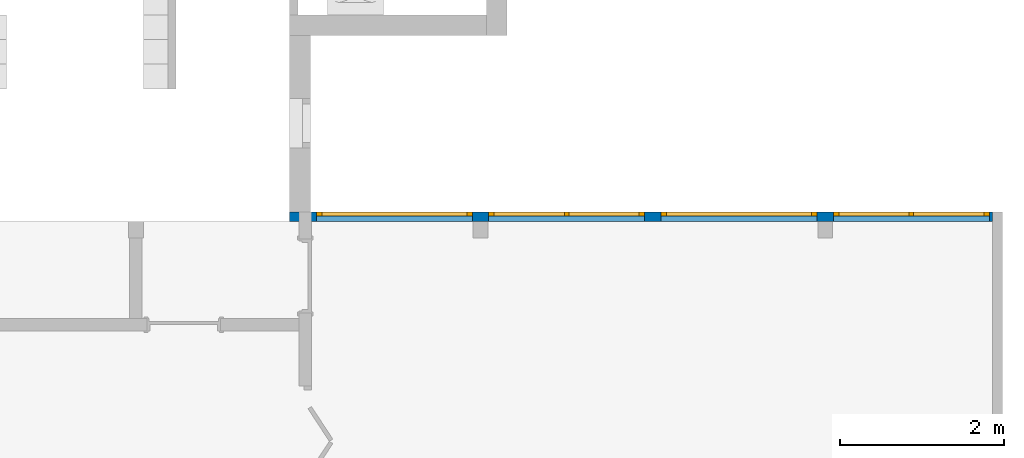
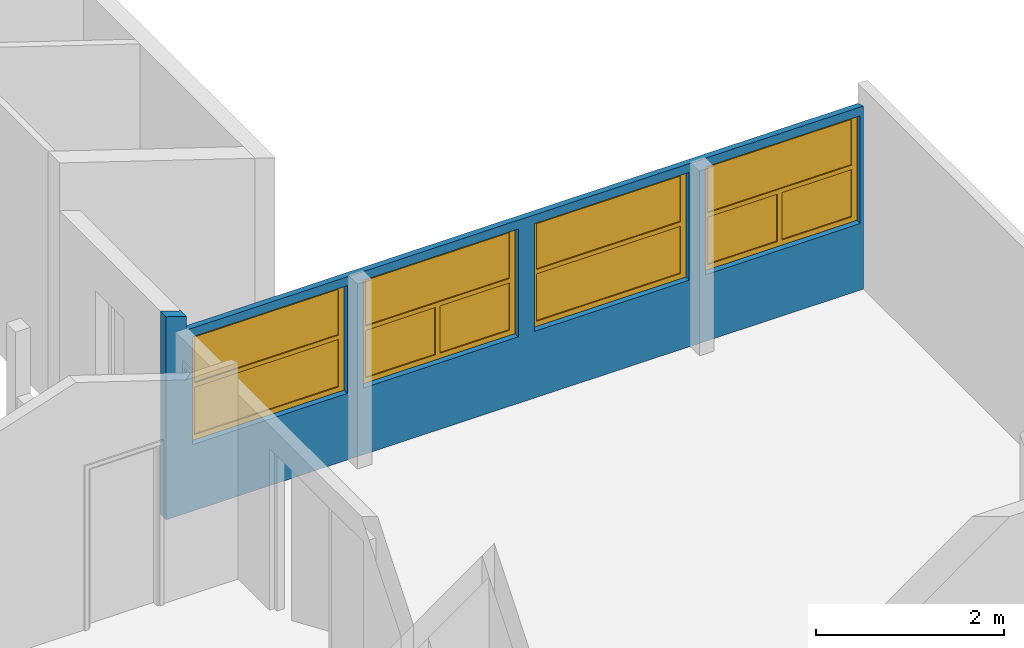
# One storey, part 28 of 48: 4 windows, 1 wall, 4 openings.
"""IFC2X3 building model written with IfcOpenShell, lengths in millimetres."""

import ifcopenshell
import ifcopenshell.guid

model = None  # the IFC model being written
_history = None  # IfcOwnerHistory: only IFC2X3 demands one
_inside = {}  # id of a spatial element -> (the spatial element, [elements in it])
_under = {}  # id of a project, library or spatial element -> (it, [spatial elements below it])
_declared = {}  # id of a project -> (the project, [libraries it declares])
_typed = {}  # id of a type object -> (the type object, [elements of that type])
_made_of = {}  # id of a material, layer set ... -> (it, [elements and type objects made of it])


def new_model(schema):
    """Start an empty IFC model of exactly this schema.

    Asked for "IFC4X3", IfcOpenShell would pick the latest addendum, in which some entities
    have other attributes; the version numbers below select the first issue.
    IFC2X3 requires an IfcOwnerHistory on every rooted entity: one is made here for all.
    """
    global model, _history
    if schema == "IFC4X3":
        model = ifcopenshell.file(schema_version=(4, 3, 0, 0))
    else:
        model = ifcopenshell.file(schema=schema)
    _inside.clear()
    _under.clear()
    _declared.clear()
    _typed.clear()
    _made_of.clear()
    _history = None
    if model.schema == "IFC2X3":
        org = make("IfcOrganization", Name="unknown")
        user = make(
            "IfcPersonAndOrganization",
            ThePerson=make("IfcPerson", FamilyName="unknown"),
            TheOrganization=org,
        )
        app = make(
            "IfcApplication",
            ApplicationDeveloper=org,
            Version="unknown",
            ApplicationFullName="unknown",
            ApplicationIdentifier="unknown",
        )
        _history = make(
            "IfcOwnerHistory",
            OwningUser=user,
            OwningApplication=app,
            ChangeAction="ADDED",
            CreationDate=0,
        )
    return model


def make(cls, **values):
    """One entity of the class cls with the attributes given. An attribute that is None is left unset."""
    return model.create_entity(
        cls, **{name: value for name, value in values.items() if value is not None}
    )


def entity(cls, *values):
    """Any entity or typed value of the class cls, its attributes in the order of the schema. None: left unset."""
    e = model.create_entity(cls)
    for i, value in enumerate(values):
        if value is not None:
            e[i] = value
    return e


def rooted(cls, **values):
    """An entity with a GlobalId (a new one), such as an element, a storey or a relation."""
    return make(cls, GlobalId=ifcopenshell.guid.new(), OwnerHistory=_history, **values)


def si_unit(unit_type, name, prefix=None):
    """IfcSIUnit, for example si_unit("LENGTHUNIT", "METRE", prefix="MILLI")."""
    return make("IfcSIUnit", UnitType=unit_type, Prefix=prefix, Name=name)


def converted_unit(unit_type, name, factor, base, dimensions=None, offset=None):
    """IfcConversionBasedUnit, such as the inch: factor (a typed value) times the base unit."""
    return make(
        "IfcConversionBasedUnit"
        if offset is None
        else "IfcConversionBasedUnitWithOffset",
        ConversionOffset=offset,
        Dimensions=None
        if dimensions is None
        else entity("IfcDimensionalExponents", *dimensions),
        UnitType=unit_type,
        Name=name,
        ConversionFactor=make(
            "IfcMeasureWithUnit", ValueComponent=factor, UnitComponent=base
        ),
    )


def derived_unit(unit_type, elements):
    """IfcDerivedUnit: a product of units, each with its exponent."""
    return make(
        "IfcDerivedUnit",
        Elements=[
            make("IfcDerivedUnitElement", Unit=unit, Exponent=power)
            for unit, power in elements
        ],
        UnitType=unit_type,
    )


def money_unit(currency):
    """IfcMonetaryUnit."""
    return make("IfcMonetaryUnit", Currency=currency)


def assignment(units):
    """IfcUnitAssignment: the units of a project."""
    return None if units is None else make("IfcUnitAssignment", Units=units)


def point(xyz):
    """IfcCartesianPoint."""
    return None if xyz is None else make("IfcCartesianPoint", Coordinates=xyz)


def direction(xyz):
    """IfcDirection."""
    return None if xyz is None else make("IfcDirection", DirectionRatios=xyz)


def frame(location, z_axis=None, x_axis=None):
    """IfcAxis2Placement3D, a coordinate frame: its origin and axes. An axis left out is left unset."""
    return make(
        "IfcAxis2Placement3D",
        Location=point(location),
        Axis=direction(z_axis),
        RefDirection=direction(x_axis),
    )


def origin_with_axes():
    """The frame at (0, 0, 0) with the z axis (0, 0, 1) and the x axis (1, 0, 0) written out."""
    return frame((0.0, 0.0, 0.0), z_axis=(0.0, 0.0, 1.0), x_axis=(1.0, 0.0, 0.0))


def place(relative_to, where):
    """IfcLocalPlacement: puts the frame where relative to a parent placement (None: the world)."""
    return make(
        "IfcLocalPlacement", PlacementRelTo=relative_to, RelativePlacement=where
    )


def context(
    kind, dimensions, precision=None, world=None, true_north=None, identifier=None
):
    """IfcGeometricRepresentationContext, for example the 3D "Model" context."""
    return make(
        "IfcGeometricRepresentationContext",
        ContextIdentifier=identifier,
        ContextType=kind,
        CoordinateSpaceDimension=dimensions,
        Precision=precision,
        WorldCoordinateSystem=world,
        TrueNorth=true_north,
    )


def subcontext(parent, identifier, kind, view, scale=None):
    """IfcGeometricRepresentationSubContext, for example "Body" below "Model"."""
    return make(
        "IfcGeometricRepresentationSubContext",
        ContextIdentifier=identifier,
        ContextType=kind,
        ParentContext=parent,
        TargetScale=scale,
        TargetView=view,
    )


def project(units=None, contexts=None):
    """IfcProject with its units and contexts."""
    return rooted(
        "IfcProject",
        Name="project",
        RepresentationContexts=contexts,
        UnitsInContext=assignment(units),
    )


def spatial(cls, under=None, at=None, **own):
    """A site, building, storey or space (cls), placed at a placement, below another one or the project."""
    s = rooted(cls, ObjectPlacement=at, **own)
    if under is not None:
        _under.setdefault(under.id(), (under, []))[1].append(s)
    return s


def faces_of(points, faces, orient=None, outer=None):
    """IfcFace entities. A face is a list of loops; a loop is a list of indices into points, from 0.

    orient and outer hold one flag for each loop. By default every Orientation is true, the
    first loop of a face is its IfcFaceOuterBound and the others are IfcFaceBound.
    """
    made = []
    for i, loops in enumerate(faces):
        bounds = []
        for j, loop in enumerate(loops):
            is_outer = j == 0 if outer is None else outer[i][j]
            bounds.append(
                make(
                    "IfcFaceOuterBound" if is_outer else "IfcFaceBound",
                    Bound=make("IfcPolyLoop", Polygon=[points[k] for k in loop]),
                    Orientation=True if orient is None else orient[i][j],
                )
            )
        made.append(make("IfcFace", Bounds=bounds))
    return made


def open_shell(faces, orient=None, outer=None):
    """The faces of one IfcOpenShell. surface_model builds it on its shared points."""
    return ("IfcOpenShell", faces, orient, outer)


def faceted_brep(points, faces, orient=None, outer=None, voids=None):
    """IfcFacetedBrep: a solid bounded by flat faces; with voids (closed shells), ...WithVoids."""
    shared = [point(p) for p in points]
    hull = make("IfcClosedShell", CfsFaces=faces_of(shared, faces, orient, outer))
    if voids is None:
        return make("IfcFacetedBrep", Outer=hull)
    return make(
        "IfcFacetedBrepWithVoids",
        Outer=hull,
        Voids=[
            make(cls, CfsFaces=faces_of(shared, fs, o, b)) for cls, fs, o, b in voids
        ],
    )


def surface_model(cls, points, shells):
    """IfcFaceBasedSurfaceModel or IfcShellBasedSurfaceModel (cls): surfaces that need not close."""
    shared = [point(p) for p in points]
    made = [make(c, CfsFaces=faces_of(shared, fs, o, b)) for c, fs, o, b in shells]
    if cls == "IfcFaceBasedSurfaceModel":
        return make(cls, FbsmFaces=made)
    return make(cls, SbsmBoundary=made)


def shape(context_of_items, identifier, shape_type, items):
    """IfcShapeRepresentation: the items that make up one representation, for example the "Body"."""
    return make(
        "IfcShapeRepresentation",
        ContextOfItems=context_of_items,
        RepresentationIdentifier=identifier,
        RepresentationType=shape_type,
        Items=items,
    )


def source(mapping_origin, context_of_items, identifier, shape_type, items):
    """IfcRepresentationMap: a shape defined once, which mapped items show again and again."""
    return make(
        "IfcRepresentationMap",
        MappingOrigin=mapping_origin,
        MappedRepresentation=shape(context_of_items, identifier, shape_type, items),
    )


def transform(
    local_origin,
    x_axis=None,
    y_axis=None,
    z_axis=None,
    scale=None,
    scale2=None,
    scale3=None,
    uniform=True,
):
    """IfcCartesianTransformationOperator3D, or its non-uniform kind. x_axis, y_axis, z_axis: its Axis1, 2, 3."""
    if uniform:
        return make(
            "IfcCartesianTransformationOperator3D",
            Axis1=direction(x_axis),
            Axis2=direction(y_axis),
            LocalOrigin=point(local_origin),
            Scale=scale,
            Axis3=direction(z_axis),
        )
    return make(
        "IfcCartesianTransformationOperator3DnonUniform",
        Axis1=direction(x_axis),
        Axis2=direction(y_axis),
        LocalOrigin=point(local_origin),
        Scale=scale,
        Axis3=direction(z_axis),
        Scale2=scale2,
        Scale3=scale3,
    )


def mapped(mapping_source, mapping_target):
    """IfcMappedItem: shows the shape of a source again, moved by a transform."""
    return make(
        "IfcMappedItem", MappingSource=mapping_source, MappingTarget=mapping_target
    )


def material(Name=None, Category=None):
    """IfcMaterial."""
    return make("IfcMaterial", Name=Name, Category=Category)


def made_of(thing, what):
    """Note that an element or type object is made of a material, layer set ...; save() writes the relation."""
    if what is not None:
        _made_of.setdefault(what.id(), (what, []))[1].append(thing)
    return thing


def type_object(cls, material=None, **own):
    """A type object (cls), such as IfcWallType, which elements share."""
    return made_of(rooted(cls, **own), material)


def element(
    cls,
    number,
    at=None,
    inside=None,
    cuts=None,
    type_object=None,
    material=None,
    context=None,
    identifier="Body",
    shape_type=None,
    held_by="IfcProductDefinitionShape",
    body=None,
    shapes=None,
    **own,
):
    """One element of the class cls, such as IfcWall. Its Tag is "e" and its number.

    at: its placement. inside: the storey or other place that contains it. cuts: it is an
    opening in that element (IfcRelVoidsElement). A single representation is given by context,
    identifier, shape_type and body (its items); several are given by shapes. held_by: the class
    of the entity that holds the representations. save() writes the other relations.
    """
    e = rooted(cls, Tag="e%d" % number, ObjectPlacement=at, **own)
    if body is not None:
        shapes = [shape(context, identifier, shape_type, body)]
    if shapes is not None:
        e.Representation = make(held_by, Representations=shapes)
    if inside is not None:
        _inside.setdefault(inside.id(), (inside, []))[1].append(e)
    if cuts is not None:
        rooted(
            "IfcRelVoidsElement", RelatingBuildingElement=cuts, RelatedOpeningElement=e
        )
    if type_object is not None:
        _typed.setdefault(type_object.id(), (type_object, []))[1].append(e)
    return made_of(e, material)


def fill(opening, filler):
    """IfcRelFillsElement: the door or window that sits in an opening."""
    return rooted(
        "IfcRelFillsElement",
        RelatingOpeningElement=opening,
        RelatedBuildingElement=filler,
    )


def aggregate(whole, parts):
    """IfcRelAggregates: a whole, such as a stair, and the parts it consists of."""
    return rooted("IfcRelAggregates", RelatingObject=whole, RelatedObjects=parts)


def save(model, path):
    """Write the relations noted so far, then the file.

    IfcRelAggregates (storeys below a building ...), IfcRelContainedInSpatialStructure (elements
    in a storey), IfcRelDefinesByType, IfcRelAssociatesMaterial and IfcRelDeclares: one each for
    every whole, place, type object, material and project.
    """
    for whole, parts in _under.values():
        aggregate(whole, parts)
    for where, things in _inside.values():
        rooted(
            "IfcRelContainedInSpatialStructure",
            RelatedElements=things,
            RelatingStructure=where,
        )
    for kind, things in _typed.values():
        rooted("IfcRelDefinesByType", RelatedObjects=things, RelatingType=kind)
    for what, things in _made_of.values():
        rooted("IfcRelAssociatesMaterial", RelatedObjects=things, RelatingMaterial=what)
    for by, libraries in _declared.values():
        rooted("IfcRelDeclares", RelatingContext=by, RelatedDefinitions=libraries)
    model.write(path)


model = new_model("IFC2X3")

# Units and contexts
model_context = context("Model", 3, precision=0.01, world=origin_with_axes(), true_north=direction((0.0, 1.0)))
body_context = subcontext(model_context, "Body", "Model", "MODEL_VIEW")
ifc_project = project(units=[si_unit("LENGTHUNIT", "METRE", prefix="MILLI"), si_unit("AREAUNIT", "SQUARE_METRE"), si_unit("VOLUMEUNIT", "CUBIC_METRE"), converted_unit("PLANEANGLEUNIT", "DEGREE", entity("IfcPlaneAngleMeasure", 0.0174532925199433), si_unit("PLANEANGLEUNIT", "RADIAN"), dimensions=[0, 0, 0, 0, 0, 0, 0]), money_unit("USD"), converted_unit("TIMEUNIT", "Year", entity("IfcTimeMeasure", 31557600.0), si_unit("TIMEUNIT", "SECOND"), dimensions=[0, 0, 1, 0, 0, 0, 0]), si_unit("MASSUNIT", "GRAM", prefix="KILO"), si_unit("THERMODYNAMICTEMPERATUREUNIT", "DEGREE_CELSIUS"), si_unit("LUMINOUSINTENSITYUNIT", "LUMEN"), si_unit("ENERGYUNIT", "JOULE", prefix="MEGA"), derived_unit("THERMALCONDUCTANCEUNIT", [(si_unit("POWERUNIT", "WATT"), 1), (si_unit("LENGTHUNIT", "METRE"), -1), (si_unit("THERMODYNAMICTEMPERATUREUNIT", "KELVIN"), -1)]), derived_unit("SPECIFICHEATCAPACITYUNIT", [(si_unit("ENERGYUNIT", "JOULE"), 1), (si_unit("MASSUNIT", "GRAM", prefix="KILO"), -1), (si_unit("THERMODYNAMICTEMPERATUREUNIT", "KELVIN"), -1)]), derived_unit("MASSDENSITYUNIT", [(si_unit("MASSUNIT", "GRAM", prefix="KILO"), 1), (si_unit("VOLUMEUNIT", "CUBIC_METRE"), -1)])], contexts=[model_context])

# Site, building, storey
site_placement = place(None, origin_with_axes())
site = spatial("IfcSite", under=ifc_project, at=site_placement, Name="Site", CompositionType="ELEMENT")
building_placement = place(site_placement, origin_with_axes())
building = spatial("IfcBuilding", under=site, at=building_placement, Name="Building", CompositionType="ELEMENT")
storey_placement = place(building_placement, frame((0.0, 0.0, 3300.0), z_axis=(0.0, 0.0, 1.0), x_axis=(1.0, 0.0, 0.0)))
storey = spatial("IfcBuildingStorey", under=building, at=storey_placement, Name="1 ETG", CompositionType="ELEMENT", Elevation=3300.0)

# Wall, openings, windows
ifc_material = material(Name="GENERIC - STRUCTURAL")
wall_type = type_object("IfcWallType", Name="GENERIC - STRUCTURAL 120", PredefinedType="NOTDEFINED")
wall_placement = place(storey_placement, frame((63949.99999506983, 21799.87541055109, 0.0), z_axis=(0.0, 0.0, 1.0), x_axis=(1.0, 0.0, 0.0)))
wall = element("IfcWall", 1, at=wall_placement, inside=storey, type_object=wall_type, material=ifc_material, Name="SW - 001", context=body_context, shape_type="Brep", body=[
    faceted_brep([(8440.000004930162, 0.0, 0.0), (8440.000004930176, 0.0, 2379.142857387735), (2290.000004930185, 0.0, 2379.142857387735), (2290.000004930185, 0.0, 0.0), (6300.000004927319, 0.0, 865.018749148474), (4400.000004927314, 0.0, 865.018749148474), (4400.000004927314, 0.0, 2265.018749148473), (6300.000004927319, 0.0, 2265.018749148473), (2300.000004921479, 0.0, 2265.018749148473), (4200.000004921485, 0.0, 2265.018749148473), (4200.000004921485, 0.0, 865.018749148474), (2300.000004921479, 0.0, 865.018749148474), (6500.000004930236, 0.0, 865.018749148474), (6500.000004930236, 0.0, 2265.018749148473), (8400.000004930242, 0.0, 2265.018749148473), (8400.000004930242, 0.0, 865.018749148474), (8440.000004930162, 120.000000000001, 0.0), (8440.000004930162, 120.000000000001, 2340.1929251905), (124.9999457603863, 0.0, 2379.142857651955), (2110.000004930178, 0.0, 2379.142857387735), (2110.000004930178, 0.01041998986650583, 2379.139475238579), (2290.000004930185, 0.01041998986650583, 2379.139475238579), (124.9999457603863, 120.000000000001, 2340.192925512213), (2290.000004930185, 0.01041998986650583, 0.0), (-125.0001230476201, 0.0, 0.0), (-125.0001230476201, 120.000000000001, 0.0), (2110.000004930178, 0.01041998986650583, 0.0), (2110.000004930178, 0.0, 0.0), (6300.000004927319, 120.000000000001, 865.018749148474), (4400.000004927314, 120.000000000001, 865.018749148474), (4400.000004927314, 120.000000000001, 2265.018749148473), (6300.000004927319, 120.000000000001, 2265.018749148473), (4200.000004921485, 120.000000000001, 2265.018749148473), (2300.000004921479, 120.000000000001, 2265.018749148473), (4200.000004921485, 120.000000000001, 865.018749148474), (2300.000004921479, 120.000000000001, 865.018749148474), (6500.000004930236, 120.000000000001, 865.018749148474), (6500.000004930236, 120.000000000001, 2265.018749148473), (8400.000004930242, 120.000000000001, 2265.018749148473), (8400.000004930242, 120.000000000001, 865.018749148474), (-125.0001230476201, 120.000000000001, 2639.36754174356), (124.9999457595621, 120.000000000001, 2558.144358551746), (2100.000004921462, 120.000000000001, 2265.018749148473), (200.0000049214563, 120.000000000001, 2265.018749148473), (200.0000049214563, 120.000000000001, 865.018749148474), (2100.000004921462, 120.000000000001, 865.018749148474), (124.9999457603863, 0.0, 2558.144358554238), (-125.0001230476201, 0.0, 2639.36754174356), (2100.000004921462, 0.0, 2265.018749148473), (2100.000004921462, 0.0, 865.018749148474), (200.0000049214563, 0.0, 865.018749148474), (200.0000049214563, 0.0, 2265.018749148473)], [[[0, 1, 2, 3], [4, 5, 6, 7], [8, 9, 10, 11], [12, 13, 14, 15]], [[16, 17, 1, 0]], [[18, 19, 20, 21, 2, 1, 17, 22]], [[3, 2, 21, 23]], [[24, 25, 16, 0, 3, 23, 26, 27]], [[4, 28, 29, 5]], [[5, 29, 30, 6]], [[6, 30, 31, 7]], [[7, 31, 28, 4]], [[32, 9, 8, 33]], [[34, 10, 9, 32]], [[35, 11, 10, 34]], [[33, 8, 11, 35]], [[36, 37, 13, 12]], [[37, 38, 14, 13]], [[38, 39, 15, 14]], [[39, 36, 12, 15]], [[25, 40, 41, 22, 17, 16], [30, 29, 28, 31], [42, 43, 44, 45], [34, 32, 33, 35], [36, 39, 38, 37]], [[46, 47, 24, 27, 19, 18], [48, 49, 50, 51]], [[26, 20, 19, 27]], [[23, 21, 20, 26]], [[22, 41, 46, 18]], [[24, 47, 40, 25]], [[46, 41, 40, 47]], [[48, 51, 43, 42]], [[51, 50, 44, 43]], [[50, 49, 45, 44]], [[49, 48, 42, 45]]]),
])
opening_1_placement = place(wall_placement, frame((3250.000004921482, 0.0, 865.018749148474), z_axis=(0.0, 0.0, 1.0), x_axis=(1.0, 0.0, 0.0)))
opening_1 = element("IfcOpeningElement", 2, at=opening_1_placement, cuts=wall, Name="WD - 001", context=body_context, shape_type="Brep", body=[
    faceted_brep([(-950.0000000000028, -1.000000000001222, 1400.0), (-950.0000000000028, -1.000000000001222, 0.0), (950.0000000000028, -1.000000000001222, 0.0), (950.0000000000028, -1.000000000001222, 1400.0), (-950.0000000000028, 121.0000000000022, 1400.0), (-950.0000000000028, 121.0000000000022, 0.0), (950.0000000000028, 121.0000000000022, 0.0), (950.0000000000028, 121.0000000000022, 1400.0)], [[[0, 1, 2, 3]], [[4, 5, 1, 0]], [[5, 6, 2, 1]], [[6, 7, 3, 2]], [[7, 4, 0, 3]], [[6, 5, 4, 7]]]),
])
opening_2_placement = place(wall_placement, frame((1150.000004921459, 0.0, 865.018749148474), z_axis=(0.0, 0.0, 1.0), x_axis=(1.0, 0.0, 0.0)))
opening_2 = element("IfcOpeningElement", 3, at=opening_2_placement, cuts=wall, Name="WD - 001", context=body_context, shape_type="Brep", body=[
    faceted_brep([(-950.0000000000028, -1.000000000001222, 1400.0), (-950.0000000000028, -1.000000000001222, 0.0), (950.0000000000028, -1.000000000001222, 0.0), (950.0000000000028, -1.000000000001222, 1400.0), (-950.0000000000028, 121.0000000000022, 1400.0), (-950.0000000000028, 121.0000000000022, 0.0), (950.0000000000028, 121.0000000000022, 0.0), (950.0000000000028, 121.0000000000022, 1400.0)], [[[0, 1, 2, 3]], [[4, 5, 1, 0]], [[5, 6, 2, 1]], [[6, 7, 3, 2]], [[7, 4, 0, 3]], [[6, 5, 4, 7]]]),
])
opening_3_placement = place(wall_placement, frame((5350.000004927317, 0.0, 865.018749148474), z_axis=(0.0, 0.0, 1.0), x_axis=(1.0, 0.0, 0.0)))
opening_3 = element("IfcOpeningElement", 4, at=opening_3_placement, cuts=wall, Name="WD - 001", context=body_context, shape_type="Brep", body=[
    faceted_brep([(-950.0000000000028, -1.000000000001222, 1400.0), (-950.0000000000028, -1.000000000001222, 0.0), (950.0000000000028, -1.000000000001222, 0.0), (950.0000000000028, -1.000000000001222, 1400.0), (-950.0000000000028, 121.0000000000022, 1400.0), (-950.0000000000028, 121.0000000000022, 0.0), (950.0000000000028, 121.0000000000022, 0.0), (950.0000000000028, 121.0000000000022, 1400.0)], [[[0, 1, 2, 3]], [[4, 5, 1, 0]], [[5, 6, 2, 1]], [[6, 7, 3, 2]], [[7, 4, 0, 3]], [[6, 5, 4, 7]]]),
])
opening_4_placement = place(wall_placement, frame((7450.000004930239, 0.0, 865.018749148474), z_axis=(0.0, 0.0, 1.0), x_axis=(1.0, 0.0, 0.0)))
opening_4 = element("IfcOpeningElement", 5, at=opening_4_placement, cuts=wall, Name="WD - 001", context=body_context, shape_type="Brep", body=[
    faceted_brep([(-950.0000000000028, -1.000000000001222, 1400.0), (-950.0000000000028, -1.000000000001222, 0.0), (950.0000000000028, -1.000000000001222, 0.0), (950.0000000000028, -1.000000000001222, 1400.0), (-950.0000000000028, 121.0000000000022, 1400.0), (-950.0000000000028, 121.0000000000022, 0.0), (950.0000000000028, 121.0000000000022, 0.0), (950.0000000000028, 121.0000000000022, 1400.0)], [[[0, 1, 2, 3]], [[4, 5, 1, 0]], [[5, 6, 2, 1]], [[6, 7, 3, 2]], [[7, 4, 0, 3]], [[6, 5, 4, 7]]]),
])
window_style_1 = type_object("IfcWindowStyle", Name="Vindu variabelt", ConstructionType="NOTDEFINED", OperationType="DOUBLE_PANEL_HORIZONTAL", ParameterTakesPrecedence=False, Sizeable=False)
shared_shape_1 = source(origin_with_axes(), body_context, "Body", "SurfaceModel", [
    faceted_brep([(883.9999999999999, -50.00000000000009, 681.9999999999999), (883.9999999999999, -50.00000000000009, 738.0), (883.9999999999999, 0.0, 738.0), (883.9999999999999, 0.0, 681.9999999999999), (883.9999999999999, -50.00000000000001, 66.0), (950.0, -50.00000000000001, 66.0), (950.0, -50.00000000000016, 1334.0), (883.9999999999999, -50.00000000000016, 1334.0), (883.9999999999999, 0.0, 1334.0), (950.0, 0.0, 1334.0), (950.0, 0.0, 66.0), (883.9999999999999, 0.0, 66.0)], [[[0, 1, 2, 3]], [[0, 4, 5, 6, 7, 1]], [[1, 7, 8, 2]], [[3, 2, 8, 9, 10, 11]], [[4, 0, 3, 11]], [[5, 4, 11, 10]], [[6, 5, 10, 9]], [[7, 6, 9, 8]]]),
    faceted_brep([(-883.9999999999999, -50.00000000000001, 66.0), (-950.0, -50.00000000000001, 66.0), (-950.0, 0.0, 66.0), (-883.9999999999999, 0.0, 66.0), (-883.9999999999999, -50.00000000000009, 681.9999999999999), (-883.9999999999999, -50.00000000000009, 738.0), (-883.9999999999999, -50.00000000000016, 1334.0), (-950.0, -50.00000000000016, 1334.0), (-950.0, 0.0, 1334.0), (-883.9999999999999, 0.0, 1334.0), (-883.9999999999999, 0.0, 738.0), (-883.9999999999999, 0.0, 681.9999999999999)], [[[0, 1, 2, 3]], [[0, 4, 5, 6, 7, 1]], [[1, 7, 8, 2]], [[3, 2, 8, 9, 10, 11]], [[4, 0, 3, 11]], [[5, 4, 11, 10]], [[6, 5, 10, 9]], [[7, 6, 9, 8]]]),
    faceted_brep([(883.9999999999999, -50.00000000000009, 738.0), (883.9999999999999, -50.00000000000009, 681.9999999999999), (883.9999999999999, 0.0, 681.9999999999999), (883.9999999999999, 0.0, 738.0), (-883.9999999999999, -50.00000000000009, 738.0), (-883.9999999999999, -50.00000000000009, 681.9999999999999), (-883.9999999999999, 0.0, 681.9999999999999), (-883.9999999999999, 0.0, 738.0)], [[[0, 1, 2, 3]], [[0, 4, 5, 1]], [[1, 5, 6, 2]], [[3, 2, 6, 7]], [[4, 0, 3, 7]], [[5, 4, 7, 6]]]),
    faceted_brep([(883.9999999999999, -50.00000000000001, 66.0), (950.0, -50.00000000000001, 66.0), (950.0, 0.0, 66.0), (883.9999999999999, 0.0, 66.0), (-883.9999999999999, -50.00000000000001, 66.0), (-950.0, -50.00000000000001, 66.0), (-950.0, -50.0, 0.0), (950.0, -50.0, 0.0), (950.0, 0.0, 0.0), (-950.0, 0.0, 0.0), (-950.0, 0.0, 66.0), (-883.9999999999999, 0.0, 66.0)], [[[0, 1, 2, 3]], [[0, 4, 5, 6, 7, 1]], [[1, 7, 8, 2]], [[3, 2, 8, 9, 10, 11]], [[4, 0, 3, 11]], [[5, 4, 11, 10]], [[6, 5, 10, 9]], [[7, 6, 9, 8]]]),
    faceted_brep([(-883.9999999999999, -50.00000000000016, 1334.0), (-950.0, -50.00000000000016, 1334.0), (-950.0, 0.0, 1334.0), (-883.9999999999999, 0.0, 1334.0), (883.9999999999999, -50.00000000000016, 1334.0), (950.0, -50.00000000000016, 1334.0), (950.0, -50.00000000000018, 1400.0), (-950.0, -50.00000000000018, 1400.0), (-950.0, 0.0, 1400.0), (950.0, 0.0, 1400.0), (950.0, 0.0, 1334.0), (883.9999999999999, 0.0, 1334.0)], [[[0, 1, 2, 3]], [[0, 4, 5, 6, 7, 1]], [[1, 7, 8, 2]], [[3, 2, 8, 9, 10, 11]], [[4, 0, 3, 11]], [[5, 4, 11, 10]], [[6, 5, 10, 9]], [[7, 6, 9, 8]]]),
    surface_model("IfcShellBasedSurfaceModel", [(883.9999999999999, -35.00000000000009, 738.0), (883.9999999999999, -35.00000000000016, 1334.0), (-883.9999999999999, -35.00000000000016, 1334.0), (-883.9999999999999, -35.00000000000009, 738.0)], [open_shell([[[0, 1, 2, 3]]])]),
    surface_model("IfcShellBasedSurfaceModel", [(883.9999999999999, -15.00000000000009, 738.0), (-883.9999999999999, -15.00000000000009, 738.0), (-883.9999999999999, -15.00000000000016, 1334.0), (883.9999999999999, -15.00000000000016, 1334.0)], [open_shell([[[0, 1, 2, 3]]])]),
    surface_model("IfcShellBasedSurfaceModel", [(883.9999999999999, -35.00000000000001, 66.0), (883.9999999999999, -35.00000000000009, 681.9999999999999), (-883.9999999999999, -35.00000000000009, 681.9999999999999), (-883.9999999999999, -35.00000000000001, 66.0)], [open_shell([[[0, 1, 2, 3]]])]),
    surface_model("IfcShellBasedSurfaceModel", [(883.9999999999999, -15.00000000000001, 66.0), (-883.9999999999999, -15.00000000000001, 66.0), (-883.9999999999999, -15.00000000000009, 681.9999999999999), (883.9999999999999, -15.00000000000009, 681.9999999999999)], [open_shell([[[0, 1, 2, 3]]])]),
])
window_1_placement = place(opening_3_placement, frame((-950.0000000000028, 0.0, 0.0), z_axis=(0.0, 0.0, 1.0), x_axis=(1.0, 0.0, 0.0)))
window_1 = element("IfcWindow", 6, at=window_1_placement, inside=storey, type_object=window_style_1, Name="WD - 001", ObjectType="WINDOW", OverallHeight=1400.0, OverallWidth=1900.0, context=body_context, shape_type="MappedRepresentation", body=[
    mapped(shared_shape_1, transform((950.0000000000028, 120.000000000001, 0.0))),
])
fill(opening_3, window_1)
window_2_placement = place(opening_2_placement, frame((-950.0000000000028, 0.0, 0.0), z_axis=(0.0, 0.0, 1.0), x_axis=(1.0, 0.0, 0.0)))
window_2 = element("IfcWindow", 7, at=window_2_placement, inside=storey, type_object=window_style_1, Name="WD - 001", ObjectType="WINDOW", OverallHeight=1400.0, OverallWidth=1900.0, context=body_context, shape_type="MappedRepresentation", body=[
    mapped(shared_shape_1, transform((950.0000000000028, 120.000000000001, 0.0))),
])
fill(opening_2, window_2)
window_style_2 = type_object("IfcWindowStyle", Name="Vindu variabelt", ConstructionType="NOTDEFINED", OperationType="TRIPLE_PANEL_TOP", ParameterTakesPrecedence=False, Sizeable=False)
shared_shape_2 = source(origin_with_axes(), body_context, "Body", "SurfaceModel", [
    faceted_brep([(883.9999999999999, -50.00000000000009, 681.9999999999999), (883.9999999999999, -50.00000000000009, 738.0), (883.9999999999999, 0.0, 738.0), (883.9999999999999, 0.0, 681.9999999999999), (883.9999999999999, -50.00000000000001, 66.0), (950.0, -50.00000000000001, 66.0), (950.0, -50.00000000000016, 1334.0), (883.9999999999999, -50.00000000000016, 1334.0), (883.9999999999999, 0.0, 1334.0), (950.0, 0.0, 1334.0), (950.0, 0.0, 66.0), (883.9999999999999, 0.0, 66.0)], [[[0, 1, 2, 3]], [[0, 4, 5, 6, 7, 1]], [[1, 7, 8, 2]], [[3, 2, 8, 9, 10, 11]], [[4, 0, 3, 11]], [[5, 4, 11, 10]], [[6, 5, 10, 9]], [[7, 6, 9, 8]]]),
    faceted_brep([(-883.9999999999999, -50.00000000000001, 66.0), (-950.0, -50.00000000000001, 66.0), (-950.0, 0.0, 66.0), (-883.9999999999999, 0.0, 66.0), (-883.9999999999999, -50.00000000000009, 681.9999999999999), (-883.9999999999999, -50.00000000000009, 738.0), (-883.9999999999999, -50.00000000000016, 1334.0), (-950.0, -50.00000000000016, 1334.0), (-950.0, 0.0, 1334.0), (-883.9999999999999, 0.0, 1334.0), (-883.9999999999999, 0.0, 738.0), (-883.9999999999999, 0.0, 681.9999999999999)], [[[0, 1, 2, 3]], [[0, 4, 5, 6, 7, 1]], [[1, 7, 8, 2]], [[3, 2, 8, 9, 10, 11]], [[4, 0, 3, 11]], [[5, 4, 11, 10]], [[6, 5, 10, 9]], [[7, 6, 9, 8]]]),
    faceted_brep([(27.99999999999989, -50.00000000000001, 66.0), (-28.00000000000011, -50.00000000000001, 66.0), (-28.00000000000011, 0.0, 66.0), (27.99999999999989, 0.0, 66.0), (27.99999999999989, -50.00000000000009, 681.9999999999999), (-28.00000000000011, -50.00000000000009, 681.9999999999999), (-28.00000000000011, 0.0, 681.9999999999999), (27.99999999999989, 0.0, 681.9999999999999)], [[[0, 1, 2, 3]], [[0, 4, 5, 1]], [[1, 5, 6, 2]], [[3, 2, 6, 7]], [[4, 0, 3, 7]], [[5, 4, 7, 6]]]),
    faceted_brep([(883.9999999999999, -50.00000000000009, 738.0), (883.9999999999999, -50.00000000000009, 681.9999999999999), (883.9999999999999, 0.0, 681.9999999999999), (883.9999999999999, 0.0, 738.0), (-883.9999999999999, -50.00000000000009, 738.0), (-883.9999999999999, -50.00000000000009, 681.9999999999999), (-28.00000000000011, -50.00000000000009, 681.9999999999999), (27.99999999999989, -50.00000000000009, 681.9999999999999), (27.99999999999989, 0.0, 681.9999999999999), (-28.00000000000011, 0.0, 681.9999999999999), (-883.9999999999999, 0.0, 681.9999999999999), (-883.9999999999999, 0.0, 738.0)], [[[0, 1, 2, 3]], [[0, 4, 5, 6, 7, 1]], [[1, 7, 8, 2]], [[3, 2, 8, 9, 10, 11]], [[4, 0, 3, 11]], [[5, 4, 11, 10]], [[6, 5, 10, 9]], [[7, 6, 9, 8]]]),
    faceted_brep([(883.9999999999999, -50.00000000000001, 66.0), (950.0, -50.00000000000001, 66.0), (950.0, 0.0, 66.0), (883.9999999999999, 0.0, 66.0), (27.99999999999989, -50.00000000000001, 66.0), (-28.00000000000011, -50.00000000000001, 66.0), (-883.9999999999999, -50.00000000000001, 66.0), (-950.0, -50.00000000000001, 66.0), (-950.0, -50.0, 0.0), (950.0, -50.0, 0.0), (950.0, 0.0, 0.0), (-950.0, 0.0, 0.0), (-950.0, 0.0, 66.0), (-883.9999999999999, 0.0, 66.0), (-28.00000000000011, 0.0, 66.0), (27.99999999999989, 0.0, 66.0)], [[[0, 1, 2, 3]], [[0, 4, 5, 6, 7, 8, 9, 1]], [[1, 9, 10, 2]], [[3, 2, 10, 11, 12, 13, 14, 15]], [[4, 0, 3, 15]], [[5, 4, 15, 14]], [[6, 5, 14, 13]], [[7, 6, 13, 12]], [[8, 7, 12, 11]], [[9, 8, 11, 10]]]),
    faceted_brep([(-883.9999999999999, -50.00000000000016, 1334.0), (-950.0, -50.00000000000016, 1334.0), (-950.0, 0.0, 1334.0), (-883.9999999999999, 0.0, 1334.0), (883.9999999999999, -50.00000000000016, 1334.0), (950.0, -50.00000000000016, 1334.0), (950.0, -50.00000000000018, 1400.0), (-950.0, -50.00000000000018, 1400.0), (-950.0, 0.0, 1400.0), (950.0, 0.0, 1400.0), (950.0, 0.0, 1334.0), (883.9999999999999, 0.0, 1334.0)], [[[0, 1, 2, 3]], [[0, 4, 5, 6, 7, 1]], [[1, 7, 8, 2]], [[3, 2, 8, 9, 10, 11]], [[4, 0, 3, 11]], [[5, 4, 11, 10]], [[6, 5, 10, 9]], [[7, 6, 9, 8]]]),
    surface_model("IfcShellBasedSurfaceModel", [(883.9999999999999, -35.00000000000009, 738.0), (883.9999999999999, -35.00000000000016, 1334.0), (-883.9999999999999, -35.00000000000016, 1334.0), (-883.9999999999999, -35.00000000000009, 738.0)], [open_shell([[[0, 1, 2, 3]]])]),
    surface_model("IfcShellBasedSurfaceModel", [(883.9999999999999, -15.00000000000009, 738.0), (-883.9999999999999, -15.00000000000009, 738.0), (-883.9999999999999, -15.00000000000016, 1334.0), (883.9999999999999, -15.00000000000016, 1334.0)], [open_shell([[[0, 1, 2, 3]]])]),
    surface_model("IfcShellBasedSurfaceModel", [(883.9999999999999, -35.00000000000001, 66.0), (883.9999999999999, -35.00000000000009, 681.9999999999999), (27.99999999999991, -35.00000000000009, 681.9999999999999), (27.99999999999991, -35.00000000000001, 66.0)], [open_shell([[[0, 1, 2, 3]]])]),
    surface_model("IfcShellBasedSurfaceModel", [(883.9999999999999, -15.00000000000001, 66.0), (27.99999999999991, -15.00000000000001, 66.0), (27.99999999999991, -15.00000000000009, 681.9999999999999), (883.9999999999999, -15.00000000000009, 681.9999999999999)], [open_shell([[[0, 1, 2, 3]]])]),
    surface_model("IfcShellBasedSurfaceModel", [(-28.00000000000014, -35.00000000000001, 66.0), (-28.00000000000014, -35.00000000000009, 681.9999999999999), (-883.9999999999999, -35.00000000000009, 681.9999999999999), (-883.9999999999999, -35.00000000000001, 66.0)], [open_shell([[[0, 1, 2, 3]]])]),
    surface_model("IfcShellBasedSurfaceModel", [(-28.00000000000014, -15.00000000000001, 66.0), (-883.9999999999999, -15.00000000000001, 66.0), (-883.9999999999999, -15.00000000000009, 681.9999999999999), (-28.00000000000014, -15.00000000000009, 681.9999999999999)], [open_shell([[[0, 1, 2, 3]]])]),
])
window_3_placement = place(opening_1_placement, frame((-950.0000000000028, 0.0, 0.0), z_axis=(0.0, 0.0, 1.0), x_axis=(1.0, 0.0, 0.0)))
window_3 = element("IfcWindow", 8, at=window_3_placement, inside=storey, type_object=window_style_2, Name="WD - 001", ObjectType="WINDOW", OverallHeight=1400.0, OverallWidth=1900.0, context=body_context, shape_type="MappedRepresentation", body=[
    mapped(shared_shape_2, transform((950.0000000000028, 120.000000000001, 0.0))),
])
fill(opening_1, window_3)
window_4_placement = place(opening_4_placement, frame((-950.0000000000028, 0.0, 0.0), z_axis=(0.0, 0.0, 1.0), x_axis=(1.0, 0.0, 0.0)))
window_4 = element("IfcWindow", 9, at=window_4_placement, inside=storey, type_object=window_style_2, Name="WD - 001", ObjectType="WINDOW", OverallHeight=1400.0, OverallWidth=1900.0, context=body_context, shape_type="MappedRepresentation", body=[
    mapped(shared_shape_2, transform((950.0000000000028, 120.000000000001, 0.0))),
])
fill(opening_4, window_4)

save(model, "model.ifc")
